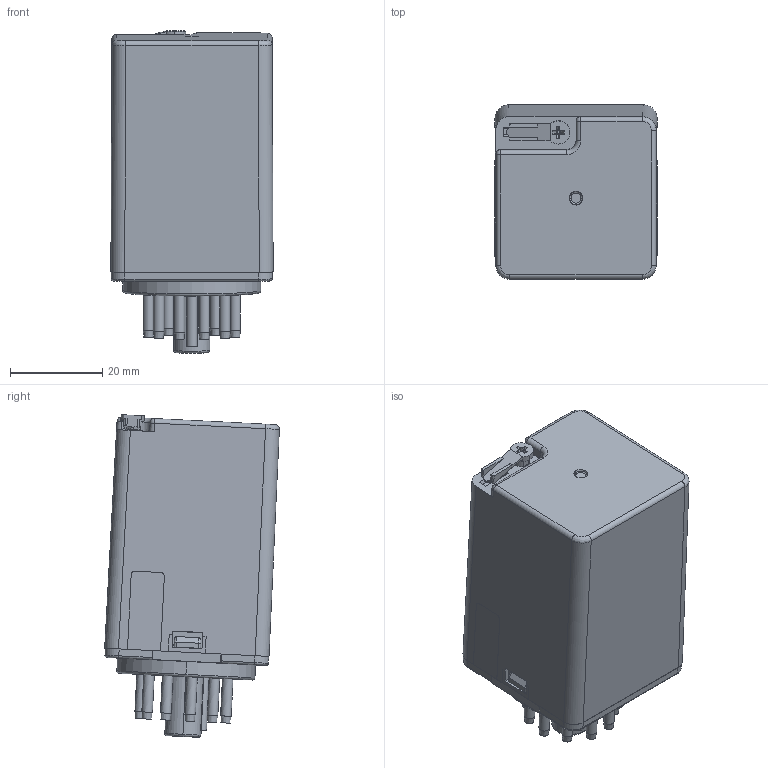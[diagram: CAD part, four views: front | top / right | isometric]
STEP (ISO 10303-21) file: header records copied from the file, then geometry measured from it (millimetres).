
FILE_DESCRIPTION(/* description */ (''),/* implementation_level */ '2;1');
FILE_NAME(/* name */ 'HF10FH_stp.stp',/* time_stamp */ '2019-01-07T20:37:47+08:00',/* author */ (''),/* organization */ (''),/* preprocessor_version */ 'ST-DEVELOPER v15',/* originating_system */ 'SIEMENS PLM Software NX 8.5',/* authorisation */ '');
FILE_SCHEMA (('CONFIG_CONTROL_DESIGN'));
Products named in the file (10): 77550617000_c; 80710157000_b; 86340678000_c; 83370032000_c; 61160154000_a; 61210628000_a; 56701883000_a; 56701891000_a; 56701892000_a; 45201810000_a_stp
Assembly tree (19 placements, depth 6):
  45201810000_a_stp
    56701892000_a
      56701891000_a
        56701883000_a
          61210628000_a
            80710157000_b
            77550617000_c  x11
    61160154000_a
      83370032000_c
      86340678000_c
Bounding box: 35.2 x 37.9 x 70.01 mm (x, y, z)
Volume: 32160.9 mm3; surface area: 48353.3 mm2
Topology: 16 solids, 18 shells, 2192 faces, 5338 edges, 3298 vertices
Faces by surface type: plane 1216, cylinder 648, bspline 88, torus 78, cone 74, sphere 56, extrusion 32
Full cylindrical faces by diameter (mm): 1.8 x44, 2.3 x44, 3.417 x2, 3.56 x2, 4.6 x22, 5 x2
Entity records: 63583 total; most frequent: CARTESIAN_POINT 13294, DIRECTION 10088, ORIENTED_EDGE 9984, EDGE_CURVE 4992, VECTOR 3420, LINE 3388, AXIS2_PLACEMENT_3D 3334, VERTEX_POINT 3218
